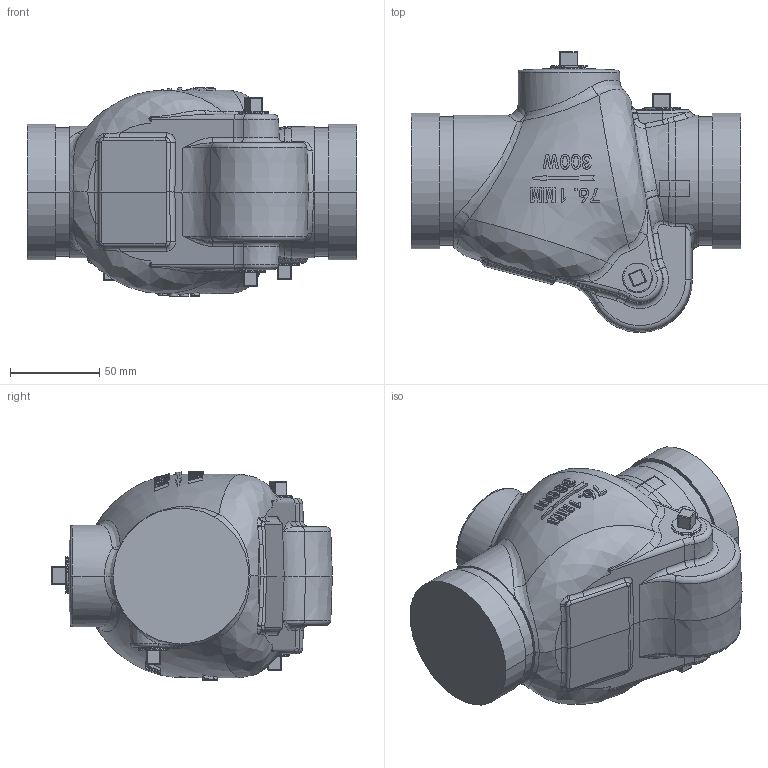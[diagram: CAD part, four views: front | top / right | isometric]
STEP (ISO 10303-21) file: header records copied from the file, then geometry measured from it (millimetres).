
FILE_DESCRIPTION (( 'STEP AP203' ), '1' );
FILE_NAME ('H84X 76 93L.STEP', '2022-06-08T10:14:26', ( 'MicroSoft' ), ( 'MicroSoft' ), 'SwSTEP 2.0', 'SolidWorks 2018', '' );
FILE_SCHEMA (( 'CONFIG_CONTROL_DESIGN' ));
Length unit declared in the file: millimetre
Products named in the file (4): h84x-d76; A291S 15; H84X 76 93L; A291S 10
Assembly tree (7 placements, depth 2):
  H84X 76 93L
    h84x-d76
    A291S 15  x2
    A291S 10  x4
Bounding box: 185 x 157.69 x 117.3 mm (x, y, z)
Volume: 1438892.3 mm3; surface area: 89627.1 mm2
Topology: 7 solids, 7 shells, 636 faces, 1539 edges, 923 vertices
Faces by surface type: bspline 234, plane 179, cylinder 172, sphere 24, torus 14, cone 13
Entity records: 31915 total; most frequent: CARTESIAN_POINT 22246, ORIENTED_EDGE 2374, EDGE_CURVE 1187, DIRECTION 1160, VERTEX_POINT 723, B_SPLINE_CURVE_WITH_KNOTS 653, EDGE_LOOP 530, ADVANCED_FACE 500
